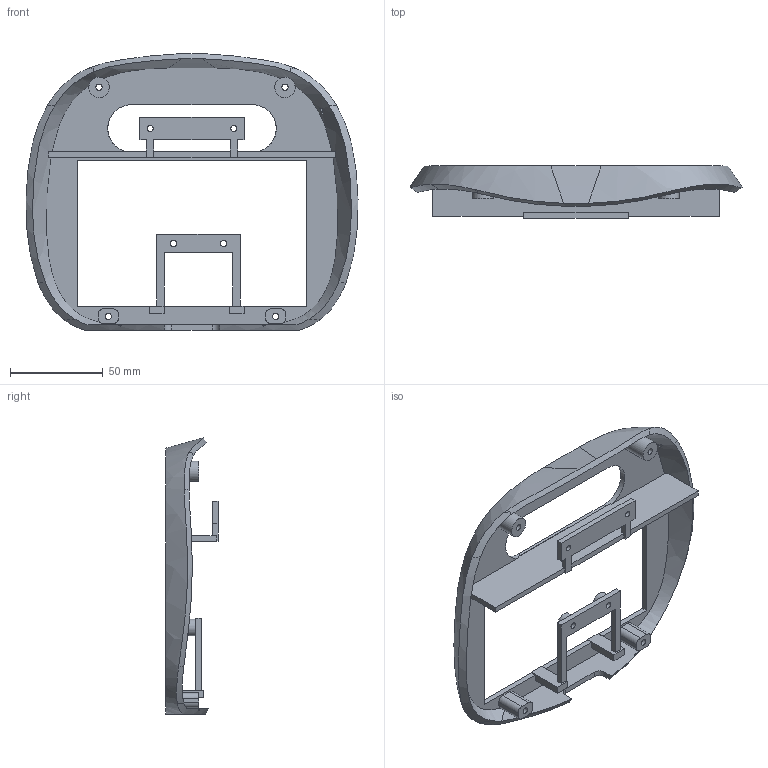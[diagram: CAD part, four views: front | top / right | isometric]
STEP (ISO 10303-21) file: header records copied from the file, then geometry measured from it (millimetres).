
FILE_DESCRIPTION(('FreeCAD Model'),'2;1');
FILE_NAME('Open CASCADE Shape Model','2026-10-18T22:43:12',('FreeCAD'),( 'FreeCAD'),'Open CASCADE STEP processor 7.8','FreeCAD','Unknown');
FILE_SCHEMA(('AUTOMOTIVE_DESIGN { 1 0 10303 214 1 1 1 1 }'));
Length unit declared in the file: millimetre
Products named in the file (1): Open CASCADE STEP translator 7.8 7
Bounding box: 178.54 x 28.05 x 148.69 mm (x, y, z)
Volume: 72523.8 mm3; surface area: 50459.3 mm2
Topology: 1 solids, 1 shells, 121 faces, 389 edges, 273 vertices
Faces by surface type: plane 76, cylinder 30, sphere 9, bspline 6
Full cylindrical faces by diameter (mm): 3.2 x2, 3.4 x6, 6 x4, 9 x2, 11 x2
Entity records: 11077 total; most frequent: CARTESIAN_POINT 7608, ORIENTED_EDGE 778, DIRECTION 663, EDGE_CURVE 389, VERTEX_POINT 273, AXIS2_PLACEMENT_3D 228, LINE 207, VECTOR 207
